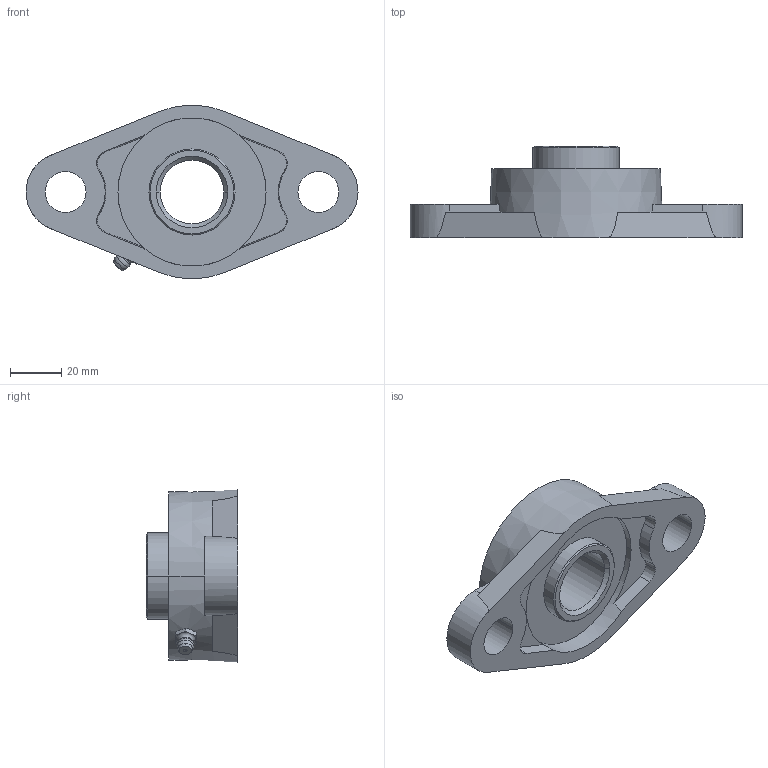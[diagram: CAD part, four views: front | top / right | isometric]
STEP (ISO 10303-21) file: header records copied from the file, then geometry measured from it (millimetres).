
FILE_DESCRIPTION (( 'STEP AP214' ), '1' );
FILE_NAME ('4.0010 Laakeri UCFL 205 JIB.STEP', '2025-09-24T07:14:50', ( '' ), ( '' ), 'SwSTEP 2.0', 'SolidWorks 2025', '' );
FILE_SCHEMA (( 'AUTOMOTIVE_DESIGN' ));
Length unit declared in the file: millimetre
Products named in the file (1): 4.0010 Laakeri UCFL 205 JIB
Bounding box: 130 x 35.8 x 67.8 mm (x, y, z)
Volume: 88119.1 mm3; surface area: 24746.6 mm2
Topology: 1 solids, 1 shells, 91 faces, 234 edges, 151 vertices
Faces by surface type: plane 36, cone 28, cylinder 20, torus 4, sphere 3
Entity records: 3364 total; most frequent: CARTESIAN_POINT 653, DIRECTION 480, ORIENTED_EDGE 458, EDGE_CURVE 229, AXIS2_PLACEMENT_3D 200, VERTEX_POINT 149, CIRCLE 108, EDGE_LOOP 106
